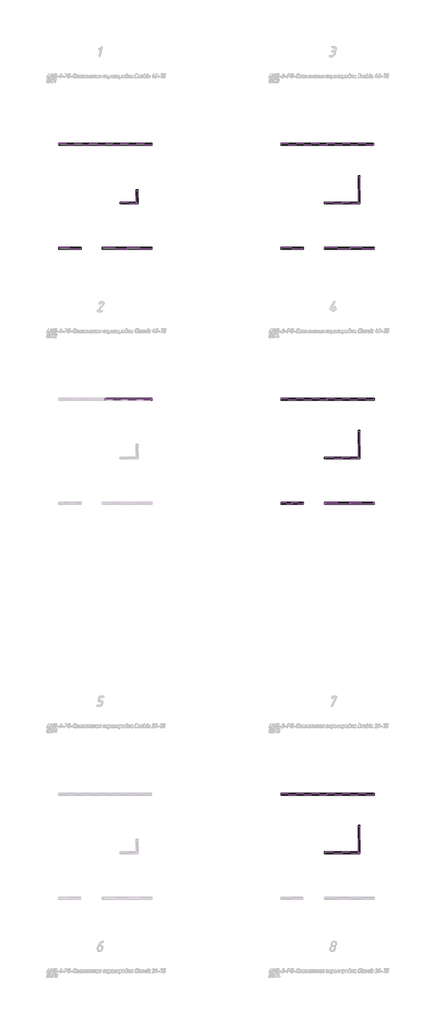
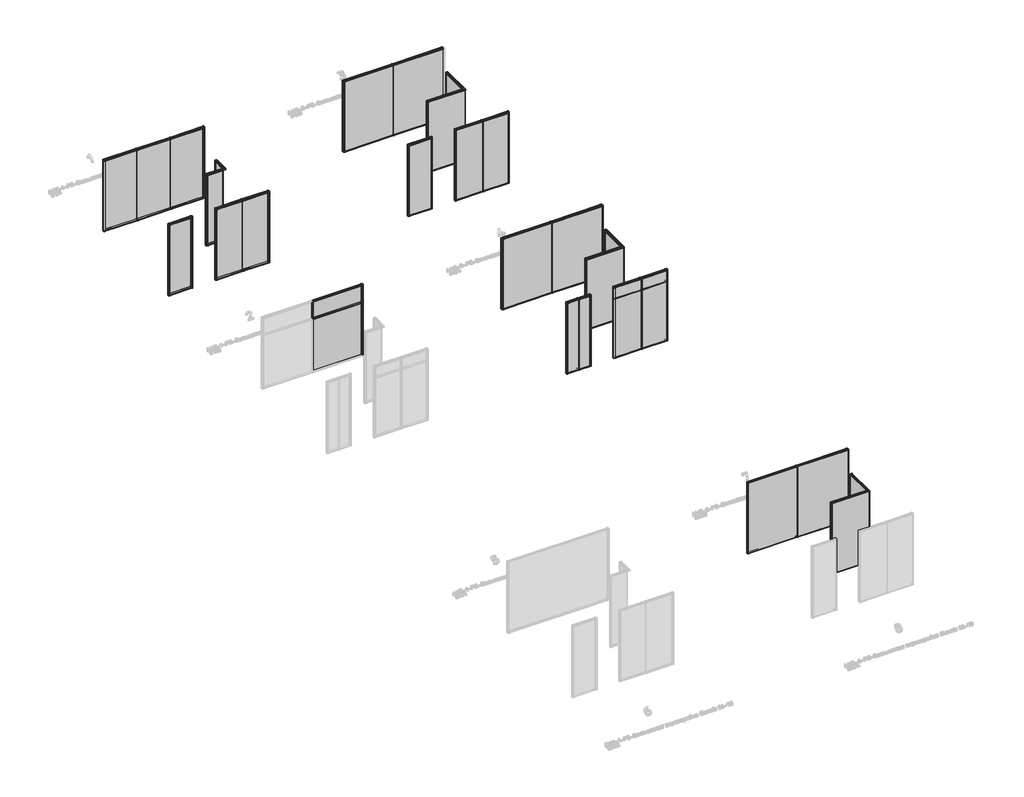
# One storey, part 3 of 22: 101 members, 31 plates.
"""IFC4 building model written with IfcOpenShell, lengths in millimetres."""

from ifc_helpers import new_model, si_unit, origin, place, context, project, spatial, transform, mapped, element, save
from components import member_247202b7, member_158f16f8, member_679ae571, member_112bad6c, member_a0690aec, member_78b921d7, member_cfed3e5b, member_4a05bf8b, member_8a6799ee, member_bda99291, member_cf11dbb0, member_debc56be, member_dd4c644b, member_fc8631e7, member_26f2d505, member_35884c0a, member_b93c6e8b, member_b67aefd6, member_0603b458, member_facdff5d, member_9c1a6d5d, member_233834ce, member_e9287edd, member_57abd591, member_7e8b3f85, member_6a86fda6, member_5242edbb, member_6fa87f2c, member_c26f0006, member_5417f793, member_72797093, member_fc993b9b, member_ba2e8d0c, member_4c076a20, member_bf523807, member_f1666801, member_062cc966, member_572960a0, member_48ac1711, member_9da3e797, member_06547a7c, member_ee2b92cd, member_1fdc8314, member_af6ca4b6, member_abd9c4e0, member_e6276f2f, member_75da5831, member_a3fe87e3, member_7ab334c5, member_a9d046c8, member_0cb69054, member_03ab2221, member_475a050b, member_5ca82919, member_07044b7f, member_5714085a, member_e85f4ef0, member_59e4e7c9, member_af907c4f, member_8569c242, member_0f264bdb, member_f0baebe7, member_abd2f60c, plate_24773b22, plate_33882103, plate_2adcd878, plate_9d8ebe26, plate_5e282792, plate_d026d3fa, plate_327917cb, plate_3ea5d1ad, plate_9d9821df, plate_94507e9f, plate_865ba4a2, plate_dce934a9, plate_cf0eaa67, plate_5bb275c1, plate_2c01cf1b, plate_a8088a49, plate_e89273ef, plate_b0ecfe9c, plate_50ec1b37, plate_b61ac6b2, plate_f024697f, plate_84526c3b, plate_45043722, plate_8bf4778b, plate_54f217e4, plate_b24c7fcb, plate_c9742521, plate_74ec5076, plate_32b2aec6

model = new_model("IFC4")

# Units and contexts
model_context = context("Model", 3, world=origin())
ifc_project = project(units=[si_unit("LENGTHUNIT", "METRE", prefix="MILLI")], contexts=[model_context])

# Site, building, storey
site = spatial("IfcSite", under=ifc_project)
building = spatial("IfcBuilding", under=site)
storey = spatial("IfcBuildingStorey", under=building, Name="Уровень 1", Elevation=0.0)

# Members
placement = place(None, origin())
member_shape = member_247202b7(model_context)
element("IfcMember", 1, ObjectType="Прямоугольный импост : 1-AMG-1-Профиль 40Х75 Верх П", at=placement, inside=storey, context=model_context, shape_type="MappedRepresentation", body=[
    mapped(member_shape, transform((-34900.3047269, -6557.9669289, 2800.0), x_axis=(0.0, 0.0, 1.0), y_axis=(0.0, -1.0, 0.0), z_axis=(1.0, 0.0, 0.0))),
])
member_2_shape = member_158f16f8(model_context)
element("IfcMember", 2, ObjectType="Прямоугольный импост : 1-AMG-1-Профиль 40Х75 Низ Л", at=placement, inside=storey, context=model_context, shape_type="MappedRepresentation", body=[
    mapped(member_2_shape, transform((-35718.0896408, -6557.9669289, 0.0), x_axis=(0.0, 0.0, -1.0), y_axis=(0.0, -1.0, 0.0), z_axis=(-1.0, 0.0, 0.0))),
])
member_3_shape = member_679ae571(model_context)
element("IfcMember", 3, ObjectType="Прямоугольный импост : 1-AMG-1-Профиль 40Х75 Верх П", at=placement, inside=storey, context=model_context, shape_type="MappedRepresentation", body=[
    mapped(member_3_shape, transform((-34859.1896408, -6557.9669289, 0.0), x_axis=(1.0, 0.0, 0.0), y_axis=(0.0, -1.0, 0.0), z_axis=(0.0, 0.0, -1.0))),
])
element("IfcMember", 4, ObjectType="Прямоугольный импост : 1-AMG-1-Профиль 40Х75 Верх П", at=placement, inside=storey, context=model_context, shape_type="MappedRepresentation", body=[
    mapped(member_3_shape, transform((-32623.5895059, -4205.3753969, 0.0), x_axis=(0.0, 1.0, 0.0), y_axis=(1.0, 0.0, 0.0), z_axis=(0.0, 0.0, -1.0))),
])
member_4_shape = member_112bad6c(model_context)
element("IfcMember", 5, ObjectType="Прямоугольный импост : 1-AMG-1-Профиль 40Х75 Верх П", at=placement, inside=storey, context=model_context, shape_type="MappedRepresentation", body=[
    mapped(member_4_shape, transform((-33303.5895059, -4745.3753969, 0.0), x_axis=(-1.0, 0.0, 0.0), y_axis=(0.0, 1.0, 0.0), z_axis=(0.0, 0.0, -1.0))),
])
member_5_shape = member_a0690aec(model_context)
element("IfcMember", 6, ObjectType="Прямоугольный импост : 1-AMG-1-Профиль 40Х75 Верх П", at=placement, inside=storey, context=model_context, shape_type="MappedRepresentation", body=[
    mapped(member_5_shape, transform((-33262.4744198, -4745.3753969, 2800.0), x_axis=(0.0, 0.0, 1.0), y_axis=(0.0, 1.0, 0.0), z_axis=(-1.0, 0.0, 0.0))),
])
member_6_shape = member_78b921d7(model_context)
element("IfcMember", 7, ObjectType="Прямоугольный импост : 1-AMG-1-Профиль 40Х75 Верх П", at=placement, inside=storey, context=model_context, shape_type="MappedRepresentation", body=[
    mapped(member_6_shape, transform((-32623.5895059, -4246.4904831, 2800.0), x_axis=(0.0, 0.0, 1.0), y_axis=(1.0, 0.0, 0.0), z_axis=(0.0, 1.0, 0.0))),
])
member_7_shape = member_cfed3e5b(model_context)
element("IfcMember", 8, ObjectType="Прямоугольный импост : 1-AMG-1-Профиль 40Х75 Низ Л", at=placement, inside=storey, context=model_context, shape_type="MappedRepresentation", body=[
    mapped(member_7_shape, transform((-32623.5895059, -4745.3753969, 0.0), x_axis=(0.0, 0.0, -1.0), y_axis=(0.0, 1.0, 0.0), z_axis=(1.0, 0.0, 0.0))),
])
member_8_shape = member_4a05bf8b(model_context)
element("IfcMember", 9, ObjectType="Прямоугольный импост : 1-AMG-1-Профиль 40Х75 Низ Л", at=placement, inside=storey, context=model_context, shape_type="MappedRepresentation", body=[
    mapped(member_8_shape, transform((-32623.5895059, -4745.3753969, 0.0), x_axis=(0.0, 0.0, -1.0), y_axis=(1.0, 0.0, 0.0), z_axis=(0.0, -1.0, 0.0))),
])
member_9_shape = member_8a6799ee(model_context)
element("IfcMember", 10, ObjectType="Прямоугольный импост : 1-AMG-1-Профиль 40Х75 Верх П", at=placement, inside=storey, context=model_context, shape_type="MappedRepresentation", body=[
    mapped(member_9_shape, transform((-32009.1896408, -6557.9669289, 2800.0), x_axis=(0.0, 0.0, 1.0), y_axis=(0.0, -1.0, 0.0), z_axis=(1.0, 0.0, 0.0))),
])
member_10_shape = member_bda99291(model_context)
element("IfcMember", 11, ObjectType="Прямоугольный импост : 1-AMG-1-Профиль 40Х75 Низ Л", at=placement, inside=storey, context=model_context, shape_type="MappedRepresentation", body=[
    mapped(member_10_shape, transform((-33979.4100608, -6557.9669289, 0.0), x_axis=(0.0, 0.0, -1.0), y_axis=(0.0, -1.0, 0.0), z_axis=(-1.0, 0.0, 0.0))),
])
member_11_shape = member_cf11dbb0(model_context)
element("IfcMember", 12, ObjectType="Прямоугольный импост : 1-AMG-1-Профиль 40Х75 Верх П", at=placement, inside=storey, context=model_context, shape_type="MappedRepresentation", body=[
    mapped(member_11_shape, transform((-32994.0352132, -6557.9669289, 2800.0), x_axis=(0.0, 0.0, 1.0), y_axis=(0.0, -1.0, 0.0), z_axis=(1.0, 0.0, 0.0))),
])
member_12_shape = member_debc56be(model_context)
element("IfcMember", 13, ObjectType="Прямоугольный импост : 1-AMG-1-Профиль 40Х75 Низ Л", at=placement, inside=storey, context=model_context, shape_type="MappedRepresentation", body=[
    mapped(member_12_shape, transform((-32994.0352132, -6557.9669289, 0.0), x_axis=(0.0, 0.0, -1.0), y_axis=(0.0, -1.0, 0.0), z_axis=(-1.0, 0.0, 0.0))),
])
member_13_shape = member_dd4c644b(model_context)
element("IfcMember", 14, ObjectType="Прямоугольный импост : 1-AMG-1-Профиль (скотч 3М) 1 средний", at=placement, inside=storey, context=model_context, shape_type="MappedRepresentation", body=[
    mapped(member_13_shape, transform((-33978.8807856, -6557.9669289, 41.1), x_axis=(1.0, 0.0, 0.0), y_axis=(0.0, -1.0, 0.0), z_axis=(0.0, 0.0, -1.0))),
])
element("IfcMember", 15, ObjectType="Прямоугольный импост : 1-AMG-1-Профиль (скотч 3М) 1 средний", at=placement, inside=storey, context=model_context, shape_type="MappedRepresentation", body=[
    mapped(member_13_shape, transform((-32994.0352132, -6557.9669289, 41.1), x_axis=(1.0, 0.0, 0.0), y_axis=(0.0, -1.0, 0.0), z_axis=(0.0, 0.0, -1.0))),
])
element("IfcMember", 16, ObjectType="Прямоугольный импост : 1-AMG-1-Профиль (скотч 3М) 1 средний", at=placement, inside=storey, context=model_context, shape_type="MappedRepresentation", body=[
    mapped(member_13_shape, transform((-33259.1896408, -2395.8466032, 41.1), x_axis=(1.0, 0.0, 0.0), y_axis=(0.0, -1.0, 0.0), z_axis=(0.0, 0.0, -1.0))),
])
element("IfcMember", 17, ObjectType="Прямоугольный импост : 1-AMG-1-Профиль (скотч 3М) 1 средний", at=placement, inside=storey, context=model_context, shape_type="MappedRepresentation", body=[
    mapped(member_13_shape, transform((-34509.1896408, -2395.8466032, 41.1), x_axis=(1.0, 0.0, 0.0), y_axis=(0.0, -1.0, 0.0), z_axis=(0.0, 0.0, -1.0))),
])
member_14_shape = member_fc8631e7(model_context)
element("IfcMember", 18, ObjectType="Прямоугольный импост : 1-AMG-1-Профиль 40Х75 Верх П", at=placement, inside=storey, context=model_context, shape_type="MappedRepresentation", body=[
    mapped(member_14_shape, transform((-32009.1896408, -6557.9669289, 41.1), x_axis=(1.0, 0.0, 0.0), y_axis=(0.0, -1.0, 0.0), z_axis=(0.0, 0.0, -1.0))),
])
element("IfcMember", 19, ObjectType="Прямоугольный импост : 1-AMG-1-Профиль 40Х75 Верх П", at=placement, inside=storey, context=model_context, shape_type="MappedRepresentation", body=[
    mapped(member_14_shape, transform((-32009.1896408, -2395.8466032, 41.1), x_axis=(1.0, 0.0, 0.0), y_axis=(0.0, -1.0, 0.0), z_axis=(0.0, 0.0, -1.0))),
])
member_15_shape = member_26f2d505(model_context)
element("IfcMember", 20, ObjectType="Прямоугольный импост : 1-AMG-1-Профиль 40Х75 Низ Л", at=placement, inside=storey, context=model_context, shape_type="MappedRepresentation", body=[
    mapped(member_15_shape, transform((-34009.1896408, -6557.9669289, 2800.0), x_axis=(-1.0, 0.0, 0.0), y_axis=(0.0, -1.0, 0.0), z_axis=(0.0, 0.0, 1.0))),
])
element("IfcMember", 21, ObjectType="Прямоугольный импост : 1-AMG-1-Профиль 40Х75 Низ Л", at=placement, inside=storey, context=model_context, shape_type="MappedRepresentation", body=[
    mapped(member_15_shape, transform((-35759.1896408, -6557.9669289, 2800.0), x_axis=(-1.0, 0.0, 0.0), y_axis=(0.0, -1.0, 0.0), z_axis=(0.0, 0.0, 1.0))),
])
member_16_shape = member_35884c0a(model_context)
element("IfcMember", 22, ObjectType="Прямоугольный импост : 3-AMG-2-Профиль 40Х75 Верх П", at=placement, inside=storey, context=model_context, shape_type="MappedRepresentation", body=[
    mapped(member_16_shape, transform((-23109.1896408, -6557.9669289, 41.1), x_axis=(1.0, 0.0, 0.0), y_axis=(0.0, -1.0, 0.0), z_axis=(0.0, 0.0, -1.0))),
])
element("IfcMember", 23, ObjectType="Прямоугольный импост : 3-AMG-2-Профиль 40Х75 Верх П", at=placement, inside=storey, context=model_context, shape_type="MappedRepresentation", body=[
    mapped(member_16_shape, transform((-25959.1896408, -16757.9669289, 41.1), x_axis=(1.0, 0.0, 0.0), y_axis=(0.0, -1.0, 0.0), z_axis=(0.0, 0.0, -1.0))),
])
member_17_shape = member_b93c6e8b(model_context)
element("IfcMember", 24, ObjectType="Прямоугольный импост : 3-AMG-2-Профиль 40Х75 Верх П", at=placement, inside=storey, context=model_context, shape_type="MappedRepresentation", body=[
    mapped(member_17_shape, transform((-26000.2896408, -6557.9669289, 2800.0), x_axis=(0.0, 0.0, 1.0), y_axis=(0.0, -1.0, 0.0), z_axis=(1.0, 0.0, 0.0))),
])
element("IfcMember", 25, ObjectType="Прямоугольный импост : 3-AMG-2-Профиль 40Х75 Низ Л", at=placement, inside=storey, context=model_context, shape_type="MappedRepresentation", body=[
    mapped(member_17_shape, transform((-26818.0896408, -6557.9669289, 0.0), x_axis=(0.0, 0.0, -1.0), y_axis=(0.0, -1.0, 0.0), z_axis=(-1.0, 0.0, 0.0))),
])
member_18_shape = member_b67aefd6(model_context)
element("IfcMember", 26, ObjectType="Прямоугольный импост : 3-AMG-2-Профиль 40Х75 Верх П", at=placement, inside=storey, context=model_context, shape_type="MappedRepresentation", body=[
    mapped(member_18_shape, transform((-25959.1896408, -6557.9669289, 0.0), x_axis=(1.0, 0.0, 0.0), y_axis=(0.0, -1.0, 0.0), z_axis=(0.0, 0.0, -1.0))),
])
element("IfcMember", 27, ObjectType="Прямоугольный импост : 3-AMG-2-Профиль 40Х75 Верх П", at=placement, inside=storey, context=model_context, shape_type="MappedRepresentation", body=[
    mapped(member_18_shape, transform((-23723.5895059, -3645.3753969, 0.0), x_axis=(0.0, 1.0, 0.0), y_axis=(1.0, 0.0, 0.0), z_axis=(0.0, 0.0, -1.0))),
])
element("IfcMember", 28, ObjectType="Прямоугольный импост : 3-AMG-2-Профиль 40Х75 Верх П", at=placement, inside=storey, context=model_context, shape_type="MappedRepresentation", body=[
    mapped(member_18_shape, transform((-23723.5895059, -13845.3753969, 0.0), x_axis=(0.0, 1.0, 0.0), y_axis=(1.0, 0.0, 0.0), z_axis=(0.0, 0.0, -1.0))),
])
element("IfcMember", 29, ObjectType="Прямоугольный импост : 3-AMG-2-Профиль 40Х75 Низ Л", at=placement, inside=storey, context=model_context, shape_type="MappedRepresentation", body=[
    mapped(member_18_shape, transform((-26859.1896408, -6557.9669289, 2800.0), x_axis=(-1.0, 0.0, 0.0), y_axis=(0.0, -1.0, 0.0), z_axis=(0.0, 0.0, 1.0))),
])
member_19_shape = member_0603b458(model_context)
element("IfcMember", 30, ObjectType="Прямоугольный импост : 3-AMG-2-Профиль 40Х75 Верх П", at=placement, inside=storey, context=model_context, shape_type="MappedRepresentation", body=[
    mapped(member_19_shape, transform((-25109.1896408, -4745.3753969, 0.0), x_axis=(-1.0, 0.0, 0.0), y_axis=(0.0, 1.0, 0.0), z_axis=(0.0, 0.0, -1.0))),
])
element("IfcMember", 31, ObjectType="Прямоугольный импост : 3-AMG-2-Профиль 40Х75 Верх П", at=placement, inside=storey, context=model_context, shape_type="MappedRepresentation", body=[
    mapped(member_19_shape, transform((-25109.1896408, -14945.3753969, 0.0), x_axis=(-1.0, 0.0, 0.0), y_axis=(0.0, 1.0, 0.0), z_axis=(0.0, 0.0, -1.0))),
])
element("IfcMember", 32, ObjectType="Прямоугольный импост : 3-AMG-2-Профиль 40Х75 Низ Л", at=placement, inside=storey, context=model_context, shape_type="MappedRepresentation", body=[
    mapped(member_16_shape, transform((-25109.1896408, -6557.9669289, 2758.9), x_axis=(-1.0, 0.0, 0.0), y_axis=(0.0, -1.0, 0.0), z_axis=(0.0, 0.0, 1.0))),
])
element("IfcMember", 33, ObjectType="Прямоугольный импост : 3-AMG-2-Профиль 40Х75 Низ Л", at=placement, inside=storey, context=model_context, shape_type="MappedRepresentation", body=[
    mapped(member_16_shape, transform((-26859.1896408, -16757.9669289, 2758.9), x_axis=(-1.0, 0.0, 0.0), y_axis=(0.0, -1.0, 0.0), z_axis=(0.0, 0.0, 1.0))),
])
member_20_shape = member_facdff5d(model_context)
element("IfcMember", 34, ObjectType="Прямоугольный импост : 3-AMG-2-Профиль 40Х75 Низ Л", at=placement, inside=storey, context=model_context, shape_type="MappedRepresentation", body=[
    mapped(member_20_shape, transform((-25109.1896408, -6557.9669289, 0.0), x_axis=(0.0, 0.0, -1.0), y_axis=(0.0, -1.0, 0.0), z_axis=(-1.0, 0.0, 0.0))),
])
element("IfcMember", 35, ObjectType="Прямоугольный импост : 3-AMG-2-Профиль 40Х75 Верх П", at=placement, inside=storey, context=model_context, shape_type="MappedRepresentation", body=[
    mapped(member_20_shape, transform((-24083.6907619, -6557.9669289, 2800.0), x_axis=(0.0, 0.0, 1.0), y_axis=(0.0, -1.0, 0.0), z_axis=(1.0, 0.0, 0.0))),
])
element("IfcMember", 36, ObjectType="Прямоугольный импост : 3-AMG-2-Профиль 40Х75 Верх П", at=placement, inside=storey, context=model_context, shape_type="MappedRepresentation", body=[
    mapped(member_20_shape, transform((-24083.6907619, -16757.9669289, 2800.0), x_axis=(0.0, 0.0, 1.0), y_axis=(0.0, -1.0, 0.0), z_axis=(1.0, 0.0, 0.0))),
])
member_21_shape = member_9c1a6d5d(model_context)
element("IfcMember", 37, ObjectType="Прямоугольный импост : 3-AMG-2-Профиль 40Х75 Верх П", at=placement, inside=storey, context=model_context, shape_type="MappedRepresentation", body=[
    mapped(member_21_shape, transform((-23109.1896408, -6557.9669289, 2800.0), x_axis=(0.0, 0.0, 1.0), y_axis=(0.0, -1.0, 0.0), z_axis=(1.0, 0.0, 0.0))),
])
element("IfcMember", 38, ObjectType="Прямоугольный импост : 3-AMG-2-Профиль 40Х75 Низ Л", at=placement, inside=storey, context=model_context, shape_type="MappedRepresentation", body=[
    mapped(member_21_shape, transform((-24083.6907619, -6557.9669289, 0.0), x_axis=(0.0, 0.0, -1.0), y_axis=(0.0, -1.0, 0.0), z_axis=(-1.0, 0.0, 0.0))),
])
element("IfcMember", 39, ObjectType="Прямоугольный импост : 3-AMG-2-Профиль 40Х75 Низ Л", at=placement, inside=storey, context=model_context, shape_type="MappedRepresentation", body=[
    mapped(member_21_shape, transform((-24083.6907619, -16757.9669289, 0.0), x_axis=(0.0, 0.0, -1.0), y_axis=(0.0, -1.0, 0.0), z_axis=(-1.0, 0.0, 0.0))),
])
member_22_shape = member_233834ce(model_context)
element("IfcMember", 40, ObjectType="Прямоугольный импост : 3-AMG-2-Профиль (скотч 3М) 1 средний", at=placement, inside=storey, context=model_context, shape_type="MappedRepresentation", body=[
    mapped(member_22_shape, transform((-24083.6907619, -6557.9669289, 41.1), x_axis=(1.0, 0.0, 0.0), y_axis=(0.0, -1.0, 0.0), z_axis=(0.0, 0.0, -1.0))),
])
element("IfcMember", 41, ObjectType="Прямоугольный импост : 3-AMG-2-Профиль (скотч 3М) 1 средний", at=placement, inside=storey, context=model_context, shape_type="MappedRepresentation", body=[
    mapped(member_22_shape, transform((-25013.3644961, -2395.8466032, 41.1), x_axis=(1.0, 0.0, 0.0), y_axis=(0.0, -1.0, 0.0), z_axis=(0.0, 0.0, -1.0))),
])
member_23_shape = member_e9287edd(model_context)
element("IfcMember", 42, ObjectType="Прямоугольный импост : 3-AMG-2-Профиль 40Х75 Верх П", at=placement, inside=storey, context=model_context, shape_type="MappedRepresentation", body=[
    mapped(member_23_shape, transform((-25068.0896408, -4745.3753969, 2800.0), x_axis=(0.0, 0.0, 1.0), y_axis=(0.0, 1.0, 0.0), z_axis=(-1.0, 0.0, 0.0))),
])
element("IfcMember", 43, ObjectType="Прямоугольный импост : 3-AMG-2-Профиль 40Х75 Верх П", at=placement, inside=storey, context=model_context, shape_type="MappedRepresentation", body=[
    mapped(member_23_shape, transform((-25068.0896408, -14945.3753969, 2800.0), x_axis=(0.0, 0.0, 1.0), y_axis=(0.0, 1.0, 0.0), z_axis=(-1.0, 0.0, 0.0))),
])
member_24_shape = member_57abd591(model_context)
element("IfcMember", 44, ObjectType="Прямоугольный импост : 3-AMG-2-Профиль 40Х75 Верх П", at=placement, inside=storey, context=model_context, shape_type="MappedRepresentation", body=[
    mapped(member_24_shape, transform((-23723.5895059, -3686.4753969, 2800.0), x_axis=(0.0, 0.0, 1.0), y_axis=(1.0, 0.0, 0.0), z_axis=(0.0, 1.0, 0.0))),
])
element("IfcMember", 45, ObjectType="Прямоугольный импост : 3-AMG-2-Профиль 40Х75 Верх П", at=placement, inside=storey, context=model_context, shape_type="MappedRepresentation", body=[
    mapped(member_24_shape, transform((-23723.5895059, -13886.4753969, 2800.0), x_axis=(0.0, 0.0, 1.0), y_axis=(1.0, 0.0, 0.0), z_axis=(0.0, 1.0, 0.0))),
])
member_25_shape = member_7e8b3f85(model_context)
element("IfcMember", 46, ObjectType="Прямоугольный импост : 3-AMG-2-Профиль 40Х75 Низ Л", at=placement, inside=storey, context=model_context, shape_type="MappedRepresentation", body=[
    mapped(member_25_shape, transform((-23723.5895059, -4745.3753969, 0.0), x_axis=(0.0, 0.0, -1.0), y_axis=(0.0, 1.0, 0.0), z_axis=(1.0, 0.0, 0.0))),
])
element("IfcMember", 47, ObjectType="Прямоугольный импост : 3-AMG-2-Профиль 40Х75 Низ Л", at=placement, inside=storey, context=model_context, shape_type="MappedRepresentation", body=[
    mapped(member_25_shape, transform((-23723.5895059, -14945.3753969, 0.0), x_axis=(0.0, 0.0, -1.0), y_axis=(0.0, 1.0, 0.0), z_axis=(1.0, 0.0, 0.0))),
])
member_26_shape = member_6a86fda6(model_context)
element("IfcMember", 48, ObjectType="Прямоугольный импост : 3-AMG-2-Профиль 40Х75 Низ Л", at=placement, inside=storey, context=model_context, shape_type="MappedRepresentation", body=[
    mapped(member_26_shape, transform((-23723.5895059, -4745.3753969, 0.0), x_axis=(0.0, 0.0, -1.0), y_axis=(1.0, 0.0, 0.0), z_axis=(0.0, -1.0, 0.0))),
])
element("IfcMember", 49, ObjectType="Прямоугольный импост : 3-AMG-2-Профиль 40Х75 Низ Л", at=placement, inside=storey, context=model_context, shape_type="MappedRepresentation", body=[
    mapped(member_26_shape, transform((-23723.5895059, -14945.3753969, 0.0), x_axis=(0.0, 0.0, -1.0), y_axis=(1.0, 0.0, 0.0), z_axis=(0.0, -1.0, 0.0))),
])
member_27_shape = member_5242edbb(model_context)
element("IfcMember", 50, ObjectType="Прямоугольный импост : 3-AMG-2-Профиль 40Х75 Верх П", at=placement, inside=storey, context=model_context, shape_type="MappedRepresentation", body=[
    mapped(member_27_shape, transform((-23150.2896408, -2395.8466032, 2800.0), x_axis=(0.0, 0.0, 1.0), y_axis=(0.0, -1.0, 0.0), z_axis=(1.0, 0.0, 0.0))),
])
element("IfcMember", 51, ObjectType="Прямоугольный импост : 3-AMG-2-Профиль 40Х75 Верх П", at=placement, inside=storey, context=model_context, shape_type="MappedRepresentation", body=[
    mapped(member_27_shape, transform((-23150.2896408, -12595.8466032, 2800.0), x_axis=(0.0, 0.0, 1.0), y_axis=(0.0, -1.0, 0.0), z_axis=(1.0, 0.0, 0.0))),
])
member_28_shape = member_6fa87f2c(model_context)
element("IfcMember", 52, ObjectType="Прямоугольный импост : 3-AMG-2-Профиль 40Х75 Низ Л", at=placement, inside=storey, context=model_context, shape_type="MappedRepresentation", body=[
    mapped(member_28_shape, transform((-26818.0896408, -2395.8466032, 0.0), x_axis=(0.0, 0.0, -1.0), y_axis=(0.0, -1.0, 0.0), z_axis=(-1.0, 0.0, 0.0))),
])
element("IfcMember", 53, ObjectType="Прямоугольный импост : 3-AMG-2-Профиль 40Х75 Низ Л", at=placement, inside=storey, context=model_context, shape_type="MappedRepresentation", body=[
    mapped(member_28_shape, transform((-26818.0896408, -12595.8466032, 0.0), x_axis=(0.0, 0.0, -1.0), y_axis=(0.0, -1.0, 0.0), z_axis=(-1.0, 0.0, 0.0))),
])
member_29_shape = member_c26f0006(model_context)
element("IfcMember", 54, ObjectType="Прямоугольный импост : 3-AMG-2-Профиль 40Х75 Верх П", at=placement, inside=storey, context=model_context, shape_type="MappedRepresentation", body=[
    mapped(member_29_shape, transform((-25013.3644961, -2395.8466032, 2800.0), x_axis=(0.0, 0.0, 1.0), y_axis=(0.0, -1.0, 0.0), z_axis=(1.0, 0.0, 0.0))),
])
element("IfcMember", 55, ObjectType="Прямоугольный импост : 3-AMG-2-Профиль 40Х75 Верх П", at=placement, inside=storey, context=model_context, shape_type="MappedRepresentation", body=[
    mapped(member_29_shape, transform((-25013.3644961, -12595.8466032, 2800.0), x_axis=(0.0, 0.0, 1.0), y_axis=(0.0, -1.0, 0.0), z_axis=(1.0, 0.0, 0.0))),
])
member_30_shape = member_5417f793(model_context)
element("IfcMember", 56, ObjectType="Прямоугольный импост : 3-AMG-2-Профиль 40Х75 Низ Л", at=placement, inside=storey, context=model_context, shape_type="MappedRepresentation", body=[
    mapped(member_30_shape, transform((-25013.3644961, -2395.8466032, 0.0), x_axis=(0.0, 0.0, -1.0), y_axis=(0.0, -1.0, 0.0), z_axis=(-1.0, 0.0, 0.0))),
])
element("IfcMember", 57, ObjectType="Прямоугольный импост : 3-AMG-2-Профиль 40Х75 Низ Л", at=placement, inside=storey, context=model_context, shape_type="MappedRepresentation", body=[
    mapped(member_30_shape, transform((-25013.3644961, -12595.8466032, 0.0), x_axis=(0.0, 0.0, -1.0), y_axis=(0.0, -1.0, 0.0), z_axis=(-1.0, 0.0, 0.0))),
])
member_31_shape = member_72797093(model_context)
element("IfcMember", 58, ObjectType="Прямоугольный импост : 1-AMG-1-Профиль 40Х75 Верх П", at=placement, inside=storey, context=model_context, shape_type="MappedRepresentation", body=[
    mapped(member_31_shape, transform((-32009.1896408, -12595.8466032, 41.1), x_axis=(1.0, 0.0, 0.0), y_axis=(0.0, -1.0, 0.0), z_axis=(0.0, 0.0, -1.0))),
])
member_32_shape = member_fc993b9b(model_context)
element("IfcMember", 59, ObjectType="Прямоугольный импост : 1-AMG-1-Профиль 40Х75 Верх П", at=placement, inside=storey, context=model_context, shape_type="MappedRepresentation", body=[
    mapped(member_32_shape, transform((-32050.3047269, -12595.8466032, 2800.0), x_axis=(0.0, 0.0, 1.0), y_axis=(0.0, -1.0, 0.0), z_axis=(1.0, 0.0, 0.0))),
])
member_33_shape = member_ba2e8d0c(model_context)
element("IfcMember", 60, ObjectType="Прямоугольный импост : 1-AMG-1-Профиль 40Х75 Верх П", at=placement, inside=storey, context=model_context, shape_type="MappedRepresentation", body=[
    mapped(member_33_shape, transform((-32009.1896408, -12595.8466032, 2100.0), x_axis=(1.0, 0.0, 0.0), y_axis=(0.0, -1.0, 0.0), z_axis=(0.0, 0.0, -1.0))),
])
member_34_shape = member_4c076a20(model_context)
element("IfcMember", 61, ObjectType="Прямоугольный импост : 2-AMG-1-Профиль 26Х75 Средний", at=placement, inside=storey, context=model_context, shape_type="MappedRepresentation", body=[
    mapped(member_34_shape, transform((-32050.3047269, -12595.8466032, 2100.0), x_axis=(0.0, 0.0, 1.0), y_axis=(0.0, -1.0, 0.0), z_axis=(1.0, 0.0, 0.0))),
])
member_35_shape = member_bf523807(model_context)
element("IfcMember", 62, ObjectType="Прямоугольный импост : 2-AMG-1-Профиль 26Х75 Средний", at=placement, inside=storey, context=model_context, shape_type="MappedRepresentation", body=[
    mapped(member_35_shape, transform((-33884.1896408, -12595.8466032, 2115.9976562), x_axis=(1.0, 0.0, 0.0), y_axis=(0.0, -1.0, 0.0), z_axis=(0.0, 0.0, -1.0))),
])
member_36_shape = member_f1666801(model_context)
element("IfcMember", 63, ObjectType="Прямоугольный импост : 4-AMG-2-Профиль 26Х75 Средний", at=placement, inside=storey, context=model_context, shape_type="MappedRepresentation", body=[
    mapped(member_36_shape, transform((-25013.3644961, -12595.8466032, 41.1), x_axis=(1.0, 0.0, 0.0), y_axis=(0.0, -1.0, 0.0), z_axis=(0.0, 0.0, -1.0))),
])
element("IfcMember", 64, ObjectType="Прямоугольный импост : 4-AMG-2-Профиль 26Х75 Средний", at=placement, inside=storey, context=model_context, shape_type="MappedRepresentation", body=[
    mapped(member_36_shape, transform((-26409.1896408, -16757.9669289, 41.1), x_axis=(1.0, 0.0, 0.0), y_axis=(0.0, -1.0, 0.0), z_axis=(0.0, 0.0, -1.0))),
])
member_37_shape = member_062cc966(model_context)
element("IfcMember", 65, ObjectType="Прямоугольный импост : 3-AMG-2-Профиль 40Х75 Верх П", at=placement, inside=storey, context=model_context, shape_type="MappedRepresentation", body=[
    mapped(member_37_shape, transform((-23109.1896408, -12595.8466032, 41.1), x_axis=(1.0, 0.0, 0.0), y_axis=(0.0, -1.0, 0.0), z_axis=(0.0, 0.0, -1.0))),
])
element("IfcMember", 66, ObjectType="Прямоугольный импост : 3-AMG-2-Профиль 40Х75 Низ Л", at=placement, inside=storey, context=model_context, shape_type="MappedRepresentation", body=[
    mapped(member_37_shape, transform((-26859.1896408, -2395.8466032, 2758.9), x_axis=(-1.0, 0.0, 0.0), y_axis=(0.0, -1.0, 0.0), z_axis=(0.0, 0.0, 1.0))),
])
element("IfcMember", 67, ObjectType="Прямоугольный импост : 3-AMG-2-Профиль 40Х75 Низ Л", at=placement, inside=storey, context=model_context, shape_type="MappedRepresentation", body=[
    mapped(member_37_shape, transform((-26859.1896408, -12595.8466032, 2758.9), x_axis=(-1.0, 0.0, 0.0), y_axis=(0.0, -1.0, 0.0), z_axis=(0.0, 0.0, 1.0))),
])
member_38_shape = member_572960a0(model_context)
element("IfcMember", 68, ObjectType="Прямоугольный импост : 1-AMG-1-Профиль 40Х75 Низ Л", at=placement, inside=storey, context=model_context, shape_type="MappedRepresentation", body=[
    mapped(member_38_shape, transform((-35759.1896408, -2395.8466032, 2758.8849139), x_axis=(-1.0, 0.0, 0.0), y_axis=(0.0, -1.0, 0.0), z_axis=(0.0, 0.0, 1.0))),
])
member_39_shape = member_48ac1711(model_context)
element("IfcMember", 69, ObjectType="Прямоугольный импост : 1-AMG-1-Профиль 40Х75 Верх П", at=placement, inside=storey, context=model_context, shape_type="MappedRepresentation", body=[
    mapped(member_39_shape, transform((-32009.1896408, -2395.8466032, 2800.0), x_axis=(0.0, 0.0, 1.0), y_axis=(0.0, -1.0, 0.0), z_axis=(1.0, 0.0, 0.0))),
])
member_40_shape = member_9da3e797(model_context)
element("IfcMember", 70, ObjectType="Прямоугольный импост : 1-AMG-1-Профиль 40Х75 Низ Л", at=placement, inside=storey, context=model_context, shape_type="MappedRepresentation", body=[
    mapped(member_40_shape, transform((-33259.1896408, -2395.8466032, 0.0), x_axis=(0.0, 0.0, -1.0), y_axis=(0.0, -1.0, 0.0), z_axis=(-1.0, 0.0, 0.0))),
])
element("IfcMember", 71, ObjectType="Прямоугольный импост : 1-AMG-1-Профиль 40Х75 Низ Л", at=placement, inside=storey, context=model_context, shape_type="MappedRepresentation", body=[
    mapped(member_40_shape, transform((-35759.1896408, -2395.8466032, 0.0), x_axis=(0.0, 0.0, -1.0), y_axis=(0.0, -1.0, 0.0), z_axis=(-1.0, 0.0, 0.0))),
])
element("IfcMember", 72, ObjectType="Прямоугольный импост : 1-AMG-1-Профиль 40Х75 Верх П", at=placement, inside=storey, context=model_context, shape_type="MappedRepresentation", body=[
    mapped(member_39_shape, transform((-33259.1896408, -2395.8466032, 2800.0), x_axis=(0.0, 0.0, 1.0), y_axis=(0.0, -1.0, 0.0), z_axis=(1.0, 0.0, 0.0))),
])
element("IfcMember", 73, ObjectType="Прямоугольный импост : 1-AMG-1-Профиль 40Х75 Верх П", at=placement, inside=storey, context=model_context, shape_type="MappedRepresentation", body=[
    mapped(member_39_shape, transform((-34509.1896408, -2395.8466032, 2800.0), x_axis=(0.0, 0.0, 1.0), y_axis=(0.0, -1.0, 0.0), z_axis=(1.0, 0.0, 0.0))),
])
element("IfcMember", 74, ObjectType="Прямоугольный импост : 1-AMG-1-Профиль 40Х75 Низ Л", at=placement, inside=storey, context=model_context, shape_type="MappedRepresentation", body=[
    mapped(member_40_shape, transform((-34509.1896408, -2395.8466032, 0.0), x_axis=(0.0, 0.0, -1.0), y_axis=(0.0, -1.0, 0.0), z_axis=(-1.0, 0.0, 0.0))),
])
member_41_shape = member_06547a7c(model_context)
element("IfcMember", 75, ObjectType="Прямоугольный импост : 3-AMG-2-Профиль 40Х75 Верх П", at=placement, inside=storey, context=model_context, shape_type="MappedRepresentation", body=[
    mapped(member_41_shape, transform((-25959.1896408, -16757.9669289, 2800.0), x_axis=(0.0, 0.0, 1.0), y_axis=(0.0, -1.0, 0.0), z_axis=(1.0, 0.0, 0.0))),
])
element("IfcMember", 76, ObjectType="Прямоугольный импост : 3-AMG-2-Профиль 40Х75 Низ Л", at=placement, inside=storey, context=model_context, shape_type="MappedRepresentation", body=[
    mapped(member_41_shape, transform((-26859.1896408, -16757.9669289, 0.0), x_axis=(0.0, 0.0, -1.0), y_axis=(0.0, -1.0, 0.0), z_axis=(-1.0, 0.0, 0.0))),
])
element("IfcMember", 77, ObjectType="Прямоугольный импост : 3-AMG-2-Профиль 40Х75 Верх П", at=placement, inside=storey, context=model_context, shape_type="MappedRepresentation", body=[
    mapped(member_41_shape, transform((-26409.1896408, -16757.9669289, 2800.0), x_axis=(0.0, 0.0, 1.0), y_axis=(0.0, -1.0, 0.0), z_axis=(1.0, 0.0, 0.0))),
])
element("IfcMember", 78, ObjectType="Прямоугольный импост : 3-AMG-2-Профиль 40Х75 Низ Л", at=placement, inside=storey, context=model_context, shape_type="MappedRepresentation", body=[
    mapped(member_41_shape, transform((-26409.1896408, -16757.9669289, 0.0), x_axis=(0.0, 0.0, -1.0), y_axis=(0.0, -1.0, 0.0), z_axis=(-1.0, 0.0, 0.0))),
])
member_42_shape = member_ee2b92cd(model_context)
element("IfcMember", 79, ObjectType="Прямоугольный импост : 4-AMG-2-Профиль 26Х75 Средний", at=placement, inside=storey, context=model_context, shape_type="MappedRepresentation", body=[
    mapped(member_42_shape, transform((-24083.6907619, -16757.9669289, 2340.0), x_axis=(0.0, 0.0, 1.0), y_axis=(0.0, -1.0, 0.0), z_axis=(1.0, 0.0, 0.0))),
])
member_43_shape = member_1fdc8314(model_context)
element("IfcMember", 80, ObjectType="Прямоугольный импост : 4-AMG-2-Профиль 26Х75 Средний", at=placement, inside=storey, context=model_context, shape_type="MappedRepresentation", body=[
    mapped(member_43_shape, transform((-23150.2896408, -16757.9669289, 2340.0), x_axis=(0.0, 0.0, 1.0), y_axis=(0.0, -1.0, 0.0), z_axis=(1.0, 0.0, 0.0))),
])
member_44_shape = member_af6ca4b6(model_context)
element("IfcMember", 81, ObjectType="Прямоугольный импост : 3-AMG-2-Профиль 40Х75 Верх П", at=placement, inside=storey, context=model_context, shape_type="MappedRepresentation", body=[
    mapped(member_44_shape, transform((-23150.2896408, -16757.9669289, 2800.0), x_axis=(0.0, 0.0, 1.0), y_axis=(0.0, -1.0, 0.0), z_axis=(1.0, 0.0, 0.0))),
])
member_45_shape = member_abd9c4e0(model_context)
element("IfcMember", 82, ObjectType="Прямоугольный импост : 3-AMG-2-Профиль 40Х75 Низ Л", at=placement, inside=storey, context=model_context, shape_type="MappedRepresentation", body=[
    mapped(member_45_shape, transform((-25068.0896408, -16757.9669289, 0.0), x_axis=(0.0, 0.0, -1.0), y_axis=(0.0, -1.0, 0.0), z_axis=(-1.0, 0.0, 0.0))),
])
member_46_shape = member_e6276f2f(model_context)
element("IfcMember", 83, ObjectType="Прямоугольный импост : 4-AMG-2-Профиль 26Х75 Средний", at=placement, inside=storey, context=model_context, shape_type="MappedRepresentation", body=[
    mapped(member_46_shape, transform((-24083.6907619, -16757.9669289, 41.1), x_axis=(1.0, 0.0, 0.0), y_axis=(0.0, -1.0, 0.0), z_axis=(0.0, 0.0, -1.0))),
])
member_47_shape = member_75da5831(model_context)
element("IfcMember", 84, ObjectType="Прямоугольный импост : 4-AMG-2-Профиль 26Х75 Средний", at=placement, inside=storey, context=model_context, shape_type="MappedRepresentation", body=[
    mapped(member_47_shape, transform((-24083.6907619, -16757.9669289, 2356.0376562), x_axis=(1.0, 0.0, 0.0), y_axis=(0.0, -1.0, 0.0), z_axis=(0.0, 0.0, -1.0))),
])
member_48_shape = member_a3fe87e3(model_context)
element("IfcMember", 85, ObjectType="Прямоугольный импост : 3-AMG-2-Профиль 40Х75 Верх П", at=placement, inside=storey, context=model_context, shape_type="MappedRepresentation", body=[
    mapped(member_48_shape, transform((-23109.1896408, -16757.9669289, 41.1), x_axis=(1.0, 0.0, 0.0), y_axis=(0.0, -1.0, 0.0), z_axis=(0.0, 0.0, -1.0))),
])
member_49_shape = member_7ab334c5(model_context)
element("IfcMember", 86, ObjectType="Прямоугольный импост : 3-AMG-2-Профиль 40Х75 Низ Л", at=placement, inside=storey, context=model_context, shape_type="MappedRepresentation", body=[
    mapped(member_49_shape, transform((-25109.1896408, -16757.9669289, 2758.9), x_axis=(-1.0, 0.0, 0.0), y_axis=(0.0, -1.0, 0.0), z_axis=(0.0, 0.0, 1.0))),
])
member_50_shape = member_a9d046c8(model_context)
element("IfcMember", 87, ObjectType="Прямоугольный импост : 3-AMG-2-Профиль 40Х75 Верх П", at=placement, inside=storey, context=model_context, shape_type="MappedRepresentation", body=[
    mapped(member_50_shape, transform((-23109.1896408, -16757.9669289, 2340.0), x_axis=(1.0, 0.0, 0.0), y_axis=(0.0, -1.0, 0.0), z_axis=(0.0, 0.0, -1.0))),
])
member_51_shape = member_0cb69054(model_context)
element("IfcMember", 88, ObjectType="Прямоугольный импост : 3-AMG-2-Профиль 40Х75 Низ Л", at=placement, inside=storey, context=model_context, shape_type="MappedRepresentation", body=[
    mapped(member_51_shape, transform((-25109.1896408, -16757.9669289, 2340.0), x_axis=(-1.0, 0.0, 0.0), y_axis=(0.0, -1.0, 0.0), z_axis=(0.0, 0.0, 1.0))),
])
member_52_shape = member_03ab2221(model_context)
element("IfcMember", 89, ObjectType="Прямоугольный импост : 7-AMG-2-Профиль 26Х75 Верх П", at=placement, inside=storey, context=model_context, shape_type="MappedRepresentation", body=[
    mapped(member_52_shape, transform((-23723.5895059, -29645.3753969, 0.0), x_axis=(0.0, 1.0, 0.0), y_axis=(1.0, 0.0, 0.0), z_axis=(0.0, 0.0, -1.0))),
])
member_53_shape = member_475a050b(model_context)
element("IfcMember", 90, ObjectType="Прямоугольный импост : 7-AMG-2-Профиль 26Х75 Верх П", at=placement, inside=storey, context=model_context, shape_type="MappedRepresentation", body=[
    mapped(member_53_shape, transform((-23723.5895059, -29672.3753969, 2800.0), x_axis=(0.0, 0.0, 1.0), y_axis=(1.0, 0.0, 0.0), z_axis=(0.0, 1.0, 0.0))),
])
member_54_shape = member_5ca82919(model_context)
element("IfcMember", 91, ObjectType="Прямоугольный импост : 7-AMG-2-Профиль 26Х75 Верх П", at=placement, inside=storey, context=model_context, shape_type="MappedRepresentation", body=[
    mapped(member_54_shape, transform((-25109.1896408, -30745.3753969, 0.0), x_axis=(-1.0, 0.0, 0.0), y_axis=(0.0, 1.0, 0.0), z_axis=(0.0, 0.0, -1.0))),
])
member_55_shape = member_07044b7f(model_context)
element("IfcMember", 92, ObjectType="Прямоугольный импост : 7-AMG-2-Профиль 26Х75 Верх П", at=placement, inside=storey, context=model_context, shape_type="MappedRepresentation", body=[
    mapped(member_55_shape, transform((-23136.1896408, -28395.8466032, 2800.0), x_axis=(0.0, 0.0, 1.0), y_axis=(0.0, -1.0, 0.0), z_axis=(1.0, 0.0, 0.0))),
])
member_56_shape = member_5714085a(model_context)
element("IfcMember", 93, ObjectType="Прямоугольный импост : 7-AMG-2-Профиль 26Х75 Верх П", at=placement, inside=storey, context=model_context, shape_type="MappedRepresentation", body=[
    mapped(member_56_shape, transform((-25013.3644961, -28395.8466032, 2800.0), x_axis=(0.0, 0.0, 1.0), y_axis=(0.0, -1.0, 0.0), z_axis=(1.0, 0.0, 0.0))),
])
member_57_shape = member_e85f4ef0(model_context)
element("IfcMember", 94, ObjectType="Прямоугольный импост : 7-AMG-2-Профиль 26Х75 Верх П", at=placement, inside=storey, context=model_context, shape_type="MappedRepresentation", body=[
    mapped(member_57_shape, transform((-25082.1896408, -30745.3753969, 2800.0), x_axis=(0.0, 0.0, 1.0), y_axis=(0.0, 1.0, 0.0), z_axis=(-1.0, 0.0, 0.0))),
])
member_58_shape = member_59e4e7c9(model_context)
element("IfcMember", 95, ObjectType="Прямоугольный импост : 7-AMG-2-Профиль 26Х75 Низ Л", at=placement, inside=storey, context=model_context, shape_type="MappedRepresentation", body=[
    mapped(member_58_shape, transform((-23723.5895059, -30745.3753969, 0.0), x_axis=(0.0, 0.0, -1.0), y_axis=(0.0, 1.0, 0.0), z_axis=(1.0, 0.0, 0.0))),
])
member_59_shape = member_af907c4f(model_context)
element("IfcMember", 96, ObjectType="Прямоугольный импост : 7-AMG-2-Профиль 26Х75 Низ Л", at=placement, inside=storey, context=model_context, shape_type="MappedRepresentation", body=[
    mapped(member_59_shape, transform((-23723.5895059, -30745.3753969, 0.0), x_axis=(0.0, 0.0, -1.0), y_axis=(1.0, 0.0, 0.0), z_axis=(0.0, -1.0, 0.0))),
])
member_60_shape = member_8569c242(model_context)
element("IfcMember", 97, ObjectType="Прямоугольный импост : 7-AMG-2-Профиль 26Х75 Низ Л", at=placement, inside=storey, context=model_context, shape_type="MappedRepresentation", body=[
    mapped(member_60_shape, transform((-25013.3644961, -28395.8466032, 0.0), x_axis=(0.0, 0.0, -1.0), y_axis=(0.0, -1.0, 0.0), z_axis=(-1.0, 0.0, 0.0))),
])
member_61_shape = member_0f264bdb(model_context)
element("IfcMember", 98, ObjectType="Прямоугольный импост : 7-AMG-2-Профиль 26Х75 Низ Л", at=placement, inside=storey, context=model_context, shape_type="MappedRepresentation", body=[
    mapped(member_61_shape, transform((-26859.1896408, -28395.8466032, 2773.0), x_axis=(-1.0, 0.0, 0.0), y_axis=(0.0, -1.0, 0.0), z_axis=(0.0, 0.0, 1.0))),
])
member_62_shape = member_f0baebe7(model_context)
element("IfcMember", 99, ObjectType="Прямоугольный импост : 3-AMG-2-Профиль (скотч 3М) 1 средний", at=placement, inside=storey, context=model_context, shape_type="MappedRepresentation", body=[
    mapped(member_62_shape, transform((-25013.3644961, -28395.8466032, 27.0), x_axis=(1.0, 0.0, 0.0), y_axis=(0.0, -1.0, 0.0), z_axis=(0.0, 0.0, -1.0))),
])
member_63_shape = member_abd2f60c(model_context)
element("IfcMember", 100, ObjectType="Прямоугольный импост : 7-AMG-2-Профиль 26Х75 Низ Л", at=placement, inside=storey, context=model_context, shape_type="MappedRepresentation", body=[
    mapped(member_63_shape, transform((-26832.1896408, -28395.8466032, 0.0), x_axis=(0.0, 0.0, -1.0), y_axis=(0.0, -1.0, 0.0), z_axis=(-1.0, 0.0, 0.0))),
])
element("IfcMember", 101, ObjectType="Прямоугольный импост : 7-AMG-2-Профиль 26Х75 Верх П", at=placement, inside=storey, context=model_context, shape_type="MappedRepresentation", body=[
    mapped(member_61_shape, transform((-23109.1896408, -28395.8466032, 27.0), x_axis=(1.0, 0.0, 0.0), y_axis=(0.0, -1.0, 0.0), z_axis=(0.0, 0.0, -1.0))),
])

# Plates
plate_shape = plate_24773b22(model_context)
element("IfcPlate", 102, ObjectType="1-AMG-1-Панель одинарный витраж 8, 10 : Смещение 32 Толщина 8mm", at=placement, inside=storey, context=model_context, shape_type="MappedRepresentation", body=[
    mapped(plate_shape, transform((-32623.5895059, -4495.9253969, 41.1), x_axis=(0.0, 1.0, 0.0), y_axis=(-1.0, 0.0, 0.0), z_axis=(0.0, 0.0, 1.0))),
])
plate_2_shape = plate_33882103(model_context)
element("IfcPlate", 103, ObjectType="1-AMG-1-Панель одинарный витраж 8, 10 : Смещение 32 Толщина 8mm", at=placement, inside=storey, context=model_context, shape_type="MappedRepresentation", body=[
    mapped(plate_2_shape, transform((-32943.0395059, -4745.3753969, 41.1), x_axis=(-1.0, 0.0, 0.0), y_axis=(0.0, -1.0, 0.0), z_axis=(0.0, 0.0, 1.0))),
])
plate_3_shape = plate_2adcd878(model_context)
element("IfcPlate", 104, ObjectType="3-AMG-2-Панель двойной витраж 8, 10 : Смещение 32 Толщина 8mm", at=placement, inside=storey, context=model_context, shape_type="MappedRepresentation", body=[
    mapped(plate_3_shape, transform((-24576.1548389, -6557.9669289, 41.1), x_axis=(1.0, 0.0, 0.0), y_axis=(0.0, 1.0, 0.0), z_axis=(0.0, 0.0, 1.0))),
])
plate_4_shape = plate_9d8ebe26(model_context)
element("IfcPlate", 105, ObjectType="3-AMG-2-Панель двойной витраж 8, 10 : Смещение 32 Толщина 8mm", at=placement, inside=storey, context=model_context, shape_type="MappedRepresentation", body=[
    mapped(plate_4_shape, transform((-23616.7358315, -6557.9669289, 41.1), x_axis=(1.0, 0.0, 0.0), y_axis=(0.0, 1.0, 0.0), z_axis=(0.0, 0.0, 1.0))),
])
plate_5_shape = plate_5e282792(model_context)
element("IfcPlate", 106, ObjectType="3-AMG-2-Панель двойной витраж 8, 10 : Смещение 32 Толщина 8mm", at=placement, inside=storey, context=model_context, shape_type="MappedRepresentation", body=[
    mapped(plate_5_shape, transform((-26409.1896408, -6557.9669289, 41.1), x_axis=(1.0, 0.0, 0.0), y_axis=(0.0, 1.0, 0.0), z_axis=(0.0, 0.0, 1.0))),
])
plate_6_shape = plate_d026d3fa(model_context)
element("IfcPlate", 107, ObjectType="1-AMG-1-Панель одинарный витраж 8, 10 : Смещение 32 Толщина 8mm", at=placement, inside=storey, context=model_context, shape_type="MappedRepresentation", body=[
    mapped(plate_6_shape, transform((-35309.1896408, -6557.9669289, 41.1), x_axis=(1.0, 0.0, 0.0), y_axis=(0.0, 1.0, 0.0), z_axis=(0.0, 0.0, 1.0))),
])
plate_7_shape = plate_327917cb(model_context)
element("IfcPlate", 108, ObjectType="3-AMG-2-Панель двойной витраж 8, 10 : Смещение 32 Толщина 8mm", at=placement, inside=storey, context=model_context, shape_type="MappedRepresentation", body=[
    mapped(plate_7_shape, transform((-24395.8395733, -4745.3753969, 41.1), x_axis=(-1.0, 0.0, 0.0), y_axis=(0.0, -1.0, 0.0), z_axis=(0.0, 0.0, 1.0))),
])
element("IfcPlate", 109, ObjectType="3-AMG-2-Панель двойной витраж 8, 10 : Смещение 32 Толщина 8mm", at=placement, inside=storey, context=model_context, shape_type="MappedRepresentation", body=[
    mapped(plate_7_shape, transform((-24395.8395733, -14945.3753969, 41.1), x_axis=(-1.0, 0.0, 0.0), y_axis=(0.0, -1.0, 0.0), z_axis=(0.0, 0.0, 1.0))),
])
plate_8_shape = plate_3ea5d1ad(model_context)
element("IfcPlate", 110, ObjectType="3-AMG-2-Панель двойной витраж 8, 10 : Смещение 32 Толщина 8mm", at=placement, inside=storey, context=model_context, shape_type="MappedRepresentation", body=[
    mapped(plate_8_shape, transform((-23723.5895059, -4215.9253969, 41.1), x_axis=(0.0, 1.0, 0.0), y_axis=(-1.0, 0.0, 0.0), z_axis=(0.0, 0.0, 1.0))),
])
element("IfcPlate", 111, ObjectType="3-AMG-2-Панель двойной витраж 8, 10 : Смещение 32 Толщина 8mm", at=placement, inside=storey, context=model_context, shape_type="MappedRepresentation", body=[
    mapped(plate_8_shape, transform((-23723.5895059, -14415.9253969, 41.1), x_axis=(0.0, 1.0, 0.0), y_axis=(-1.0, 0.0, 0.0), z_axis=(0.0, 0.0, 1.0))),
])
plate_9_shape = plate_9d9821df(model_context)
element("IfcPlate", 112, ObjectType="1-AMG-1-Панель одинарный витраж 8, 10 : Смещение 32 Толщина 8mm", at=placement, inside=storey, context=model_context, shape_type="MappedRepresentation", body=[
    mapped(plate_9_shape, transform((-32959.2408127, -12595.8466032, 2115.9976562), x_axis=(1.0, 0.0, 0.0), y_axis=(0.0, 1.0, 0.0), z_axis=(0.0, 0.0, 1.0))),
])
plate_10_shape = plate_94507e9f(model_context)
element("IfcPlate", 113, ObjectType="1-AMG-1-Панель одинарный витраж 8, 10 : Смещение 32 Толщина 8mm", at=placement, inside=storey, context=model_context, shape_type="MappedRepresentation", body=[
    mapped(plate_10_shape, transform((-32959.2408127, -12595.8466032, 41.1), x_axis=(1.0, 0.0, 0.0), y_axis=(0.0, 1.0, 0.0), z_axis=(0.0, 0.0, 1.0))),
])
plate_11_shape = plate_865ba4a2(model_context)
element("IfcPlate", 114, ObjectType="3-AMG-2-Панель двойной витраж 8, 10 : Смещение 32 Толщина 8mm", at=placement, inside=storey, context=model_context, shape_type="MappedRepresentation", body=[
    mapped(plate_11_shape, transform((-25923.7082403, -12595.8466032, 41.1), x_axis=(1.0, 0.0, 0.0), y_axis=(0.0, 1.0, 0.0), z_axis=(0.0, 0.0, 1.0))),
])
plate_12_shape = plate_dce934a9(model_context)
element("IfcPlate", 115, ObjectType="3-AMG-2-Панель двойной витраж 8, 10 : Смещение 32 Толщина 8mm", at=placement, inside=storey, context=model_context, shape_type="MappedRepresentation", body=[
    mapped(plate_12_shape, transform((-24073.8082403, -12595.8466032, 41.1), x_axis=(1.0, 0.0, 0.0), y_axis=(0.0, 1.0, 0.0), z_axis=(0.0, 0.0, 1.0))),
])
plate_13_shape = plate_cf0eaa67(model_context)
element("IfcPlate", 116, ObjectType="1-AMG-1-Панель одинарный витраж 8, 10 : Смещение 32 Толщина 8mm", at=placement, inside=storey, context=model_context, shape_type="MappedRepresentation", body=[
    mapped(plate_13_shape, transform((-32654.485271, -2395.8466032, 41.1), x_axis=(1.0, 0.0, 0.0), y_axis=(0.0, 1.0, 0.0), z_axis=(0.0, 0.0, 1.0))),
])
plate_14_shape = plate_5bb275c1(model_context)
element("IfcPlate", 117, ObjectType="1-AMG-1-Панель одинарный витраж 8, 10 : Смещение 32 Толщина 8mm", at=placement, inside=storey, context=model_context, shape_type="MappedRepresentation", body=[
    mapped(plate_14_shape, transform((-35113.9042784, -2395.8466032, 41.1), x_axis=(1.0, 0.0, 0.0), y_axis=(0.0, 1.0, 0.0), z_axis=(0.0, 0.0, 1.0))),
])
plate_15_shape = plate_2c01cf1b(model_context)
element("IfcPlate", 118, ObjectType="1-AMG-1-Панель одинарный витраж 8, 10 : Смещение 32 Толщина 8mm", at=placement, inside=storey, context=model_context, shape_type="MappedRepresentation", body=[
    mapped(plate_15_shape, transform((-33884.1999086, -2395.8466032, 41.1), x_axis=(1.0, 0.0, 0.0), y_axis=(0.0, 1.0, 0.0), z_axis=(0.0, 0.0, 1.0))),
])
plate_16_shape = plate_a8088a49(model_context)
element("IfcPlate", 119, ObjectType="3-AMG-2-Панель двойной витраж 8, 10 : Смещение 32 Толщина 8mm", at=placement, inside=storey, context=model_context, shape_type="MappedRepresentation", body=[
    mapped(plate_16_shape, transform((-26196.7208127, -16757.9669289, 41.1), x_axis=(1.0, 0.0, 0.0), y_axis=(0.0, 1.0, 0.0), z_axis=(0.0, 0.0, 1.0))),
])
plate_17_shape = plate_e89273ef(model_context)
element("IfcPlate", 120, ObjectType="3-AMG-2-Панель двойной витраж 8, 10 : Смещение 32 Толщина 8mm", at=placement, inside=storey, context=model_context, shape_type="MappedRepresentation", body=[
    mapped(plate_17_shape, transform((-26621.6208127, -16757.9669289, 41.1), x_axis=(1.0, 0.0, 0.0), y_axis=(0.0, 1.0, 0.0), z_axis=(0.0, 0.0, 1.0))),
])
plate_18_shape = plate_b0ecfe9c(model_context)
element("IfcPlate", 121, ObjectType="3-AMG-2-Панель двойной витраж 8, 10 : Смещение 32 Толщина 8mm", at=placement, inside=storey, context=model_context, shape_type="MappedRepresentation", body=[
    mapped(plate_18_shape, transform((-24583.8713732, -16757.9669289, 41.1), x_axis=(1.0, 0.0, 0.0), y_axis=(0.0, 1.0, 0.0), z_axis=(0.0, 0.0, 1.0))),
])
plate_19_shape = plate_50ec1b37(model_context)
element("IfcPlate", 122, ObjectType="3-AMG-2-Панель двойной витраж 8, 10 : Смещение 32 Толщина 8mm", at=placement, inside=storey, context=model_context, shape_type="MappedRepresentation", body=[
    mapped(plate_19_shape, transform((-23608.9713732, -16757.9669289, 41.1), x_axis=(1.0, 0.0, 0.0), y_axis=(0.0, 1.0, 0.0), z_axis=(0.0, 0.0, 1.0))),
])
plate_20_shape = plate_b61ac6b2(model_context)
element("IfcPlate", 123, ObjectType="3-AMG-2-Панель двойной витраж 8, 10 : Смещение 32 Толщина 8mm", at=placement, inside=storey, context=model_context, shape_type="MappedRepresentation", body=[
    mapped(plate_20_shape, transform((-24583.8713732, -16757.9669289, 2356.0376562), x_axis=(1.0, 0.0, 0.0), y_axis=(0.0, 1.0, 0.0), z_axis=(0.0, 0.0, 1.0))),
])
plate_21_shape = plate_f024697f(model_context)
element("IfcPlate", 124, ObjectType="3-AMG-2-Панель двойной витраж 8, 10 : Смещение 32 Толщина 8mm", at=placement, inside=storey, context=model_context, shape_type="MappedRepresentation", body=[
    mapped(plate_21_shape, transform((-23608.9713732, -16757.9669289, 2356.0376562), x_axis=(1.0, 0.0, 0.0), y_axis=(0.0, 1.0, 0.0), z_axis=(0.0, 0.0, 1.0))),
])
plate_22_shape = plate_84526c3b(model_context)
element("IfcPlate", 125, ObjectType="3-AMG-2-Панель двойной витраж 8, 10 : Смещение 32 Толщина 8mm", at=placement, inside=storey, context=model_context, shape_type="MappedRepresentation", body=[
    mapped(plate_22_shape, transform((-24402.8895733, -30745.3753969, 27.0), x_axis=(-1.0, 0.0, 0.0), y_axis=(0.0, -1.0, 0.0), z_axis=(0.0, 0.0, 1.0))),
])
plate_23_shape = plate_45043722(model_context)
element("IfcPlate", 126, ObjectType="3-AMG-2-Панель двойной витраж 8, 10 : Смещение 32 Толщина 8mm", at=placement, inside=storey, context=model_context, shape_type="MappedRepresentation", body=[
    mapped(plate_23_shape, transform((-23723.5895059, -30208.8753969, 27.0), x_axis=(0.0, 1.0, 0.0), y_axis=(-1.0, 0.0, 0.0), z_axis=(0.0, 0.0, 1.0))),
])
plate_24_shape = plate_8bf4778b(model_context)
element("IfcPlate", 127, ObjectType="3-AMG-2-Панель двойной витраж 8, 10 : Смещение 32 Толщина 8mm", at=placement, inside=storey, context=model_context, shape_type="MappedRepresentation", body=[
    mapped(plate_24_shape, transform((-25915.991706, -2395.8466032, 41.1), x_axis=(1.0, 0.0, 0.0), y_axis=(0.0, 1.0, 0.0), z_axis=(0.0, 0.0, 1.0))),
])
plate_25_shape = plate_54f217e4(model_context)
element("IfcPlate", 128, ObjectType="3-AMG-2-Панель двойной витраж 8, 10 : Смещение 32 Толщина 8mm", at=placement, inside=storey, context=model_context, shape_type="MappedRepresentation", body=[
    mapped(plate_25_shape, transform((-24081.5726986, -2395.8466032, 41.1), x_axis=(1.0, 0.0, 0.0), y_axis=(0.0, 1.0, 0.0), z_axis=(0.0, 0.0, 1.0))),
])
plate_26_shape = plate_b24c7fcb(model_context)
element("IfcPlate", 129, ObjectType="3-AMG-2-Панель двойной витраж 8, 10 : Смещение 32 Толщина 8mm", at=placement, inside=storey, context=model_context, shape_type="MappedRepresentation", body=[
    mapped(plate_26_shape, transform((-25923.041706, -28395.8466032, 27.0), x_axis=(1.0, 0.0, 0.0), y_axis=(0.0, 1.0, 0.0), z_axis=(0.0, 0.0, 1.0))),
])
plate_27_shape = plate_c9742521(model_context)
element("IfcPlate", 130, ObjectType="3-AMG-2-Панель двойной витраж 8, 10 : Смещение 32 Толщина 8mm", at=placement, inside=storey, context=model_context, shape_type="MappedRepresentation", body=[
    mapped(plate_27_shape, transform((-24074.5226986, -28395.8466032, 27.0), x_axis=(1.0, 0.0, 0.0), y_axis=(0.0, 1.0, 0.0), z_axis=(0.0, 0.0, 1.0))),
])
plate_28_shape = plate_74ec5076(model_context)
element("IfcPlate", 131, ObjectType="1-AMG-1-Панель одинарный витраж 8, 10 : Смещение 32 Толщина 8mm", at=placement, inside=storey, context=model_context, shape_type="MappedRepresentation", body=[
    mapped(plate_28_shape, transform((-33486.4682672, -6557.9669289, 41.1), x_axis=(1.0, 0.0, 0.0), y_axis=(0.0, 1.0, 0.0), z_axis=(0.0, 0.0, 1.0))),
])
plate_29_shape = plate_32b2aec6(model_context)
element("IfcPlate", 132, ObjectType="1-AMG-1-Панель одинарный витраж 8, 10 : Смещение 32 Толщина 8mm", at=placement, inside=storey, context=model_context, shape_type="MappedRepresentation", body=[
    mapped(plate_29_shape, transform((-32521.9080572, -6557.9669289, 41.1), x_axis=(1.0, 0.0, 0.0), y_axis=(0.0, 1.0, 0.0), z_axis=(0.0, 0.0, 1.0))),
])

save(model, "model.ifc")
